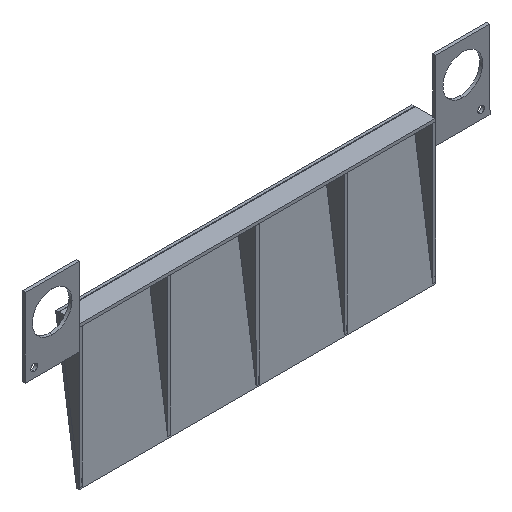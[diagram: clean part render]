
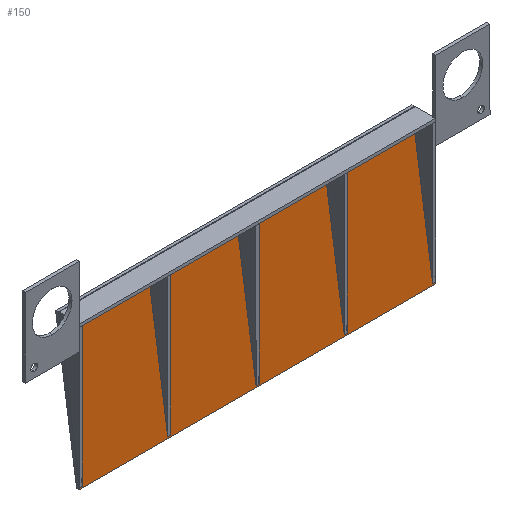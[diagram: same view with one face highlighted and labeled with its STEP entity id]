
A CAD part, isometric view. The second image highlights one B-rep face of the part: STEP entity #150.
In plain terms, the highlighted planar face has unit normal (0, -0.989, 0.145) as drawn and (0, -1, 0) by its records, which use the part's own axes.
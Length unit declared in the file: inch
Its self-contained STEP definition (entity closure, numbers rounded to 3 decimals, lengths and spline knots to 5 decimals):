
#7 = CARTESIAN_POINT ( 'NONE',  ( -6., 0., 14.75 ) ) ;
#53 = CARTESIAN_POINT ( 'NONE',  ( 6., 0., -14.75 ) ) ;
#59 = FACE_OUTER_BOUND ( 'NONE', #318, .T. ) ;
#74 = CARTESIAN_POINT ( 'NONE',  ( 6., 0., -14.75 ) ) ;
#77 = ORIENTED_EDGE ( 'NONE', *, *, #520, .T. ) ;
#95 = DIRECTION ( 'NONE',  ( -1., 0., 0. ) ) ;
#129 = VERTEX_POINT ( 'NONE', #53 ) ;
#130 = DIRECTION ( 'NONE',  ( 0., 0., 1. ) ) ;
#132 = DIRECTION ( 'NONE',  ( 1., 0., 0. ) ) ;
#140 = DIRECTION ( 'NONE',  ( 0., -1., 0. ) ) ;
#146 = EDGE_CURVE ( 'NONE', #550, #129, #807, .T. ) ;
#150 = ADVANCED_FACE ( 'N', ( #59 ), #901, .T. ) ;
#169 = CARTESIAN_POINT ( 'NONE',  ( -6., 0., -14.75 ) ) ;
#195 = CARTESIAN_POINT ( 'NONE',  ( 6., 0., 14.75 ) ) ;
#288 = LINE ( 'NONE', #651, #703 ) ;
#318 = EDGE_LOOP ( 'NONE', ( #393, #909, #552, #77 ) ) ;
#329 = VECTOR ( 'NONE', #95, 39.37008 ) ;
#369 = VECTOR ( 'NONE', #130, 39.37008 ) ;
#393 = ORIENTED_EDGE ( 'NONE', *, *, #975, .T. ) ;
#418 = DIRECTION ( 'NONE',  ( 0., 0., -1. ) ) ;
#430 = CARTESIAN_POINT ( 'NONE',  ( -6., 0., 14.75 ) ) ;
#448 = EDGE_CURVE ( 'NONE', #129, #941, #720, .T. ) ;
#463 = VERTEX_POINT ( 'NONE', #430 ) ;
#520 = EDGE_CURVE ( 'NONE', #941, #463, #628, .T. ) ;
#550 = VERTEX_POINT ( 'NONE', #169 ) ;
#552 = ORIENTED_EDGE ( 'NONE', *, *, #448, .T. ) ;
#600 = VECTOR ( 'NONE', #132, 39.37008 ) ;
#628 = LINE ( 'NONE', #7, #329 ) ;
#651 = CARTESIAN_POINT ( 'NONE',  ( -6., 0., 14.75 ) ) ;
#703 = VECTOR ( 'NONE', #418, 39.37008 ) ;
#720 = LINE ( 'NONE', #195, #369 ) ;
#807 = LINE ( 'NONE', #885, #600 ) ;
#820 = DIRECTION ( 'NONE',  ( 0., 0., -1. ) ) ;
#824 = AXIS2_PLACEMENT_3D ( 'NONE', #74, #140, #820 ) ;
#885 = CARTESIAN_POINT ( 'NONE',  ( -6., 0., -14.75 ) ) ;
#901 = PLANE ( 'NONE',  #824 ) ;
#909 = ORIENTED_EDGE ( 'NONE', *, *, #146, .T. ) ;
#941 = VERTEX_POINT ( 'NONE', #970 ) ;
#970 = CARTESIAN_POINT ( 'NONE',  ( 6., 0., 14.75 ) ) ;
#975 = EDGE_CURVE ( 'NONE', #463, #550, #288, .T. ) ;
